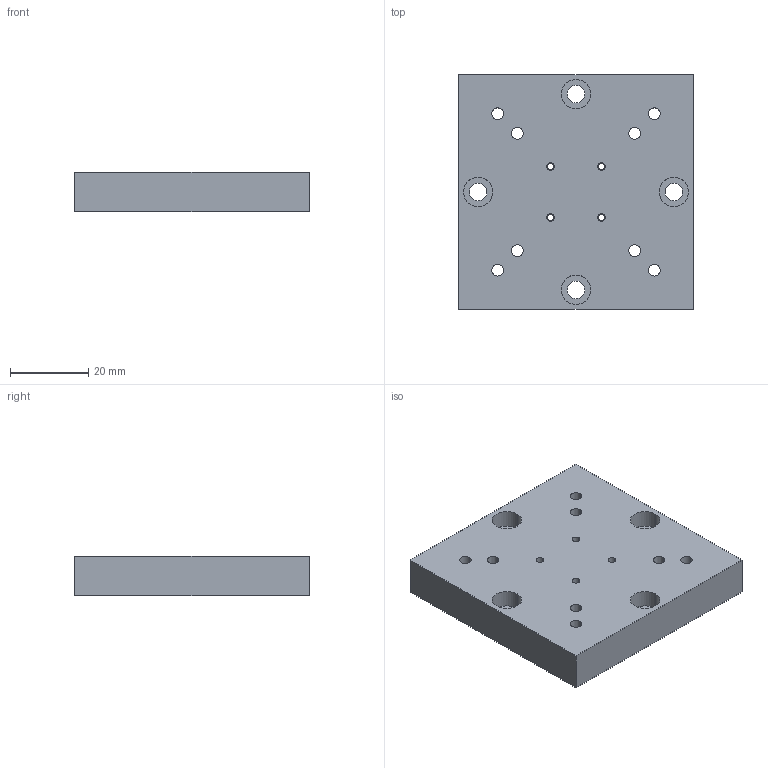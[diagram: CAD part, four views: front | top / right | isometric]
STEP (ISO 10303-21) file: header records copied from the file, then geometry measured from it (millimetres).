
FILE_DESCRIPTION( (''), '2;1');
FILE_NAME ('SPT-06.stp','2020-07-22T08:46:44',(''),(''),'spGate 15.6.6','','');
FILE_SCHEMA (('AUTOMOTIVE_DESIGN'));
Length unit declared in the file: millimetre
Products named in the file (2): Assembly; SPT-06-prt0
Assembly tree (1 placements, depth 2):
  Assembly
    SPT-06-prt0
Bounding box: 60 x 60 x 10 mm (x, y, z)
Volume: 34183 mm3; surface area: 11063 mm2
Topology: 1 solids, 1 shells, 62 faces, 156 edges, 104 vertices
Faces by surface type: cylinder 48, plane 14
Entity records: 3208 total; most frequent: CARTESIAN_POINT 374, DIRECTION 336, ORIENTED_EDGE 312, COLOUR_RGB 219, PRESENTATION_STYLE_ASSIGNMENT 219, STYLED_ITEM 219, AXIS2_PLACEMENT_3D 162, EDGE_CURVE 156
